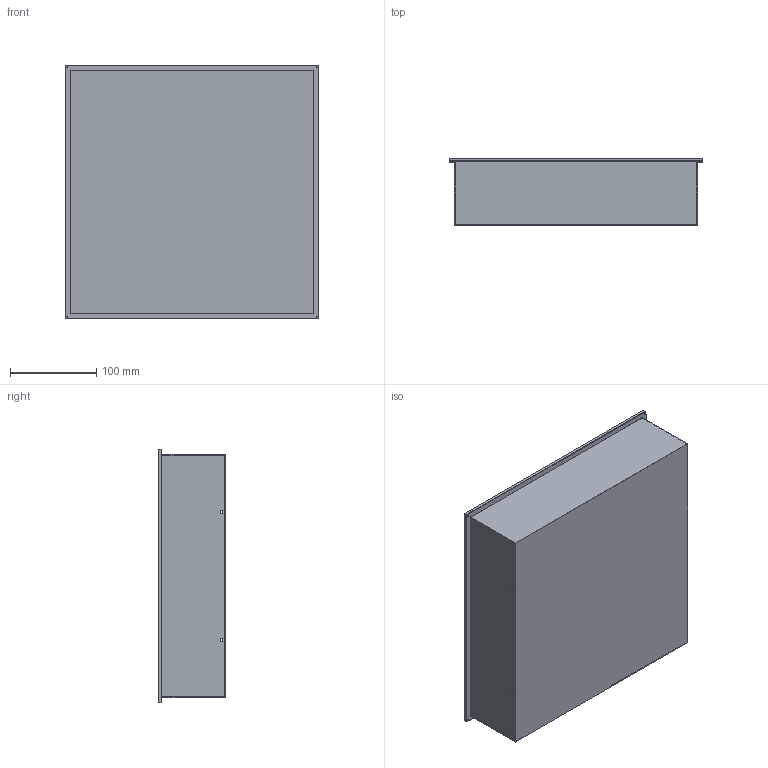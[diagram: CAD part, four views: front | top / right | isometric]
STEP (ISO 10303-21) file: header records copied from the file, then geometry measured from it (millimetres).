
FILE_DESCRIPTION(/* description */ (''),/* implementation_level */ '2;1');
FILE_NAME(/* name */ 'C:/Users/elena/Downloads/Coner QNQ 30.step',/* time_stamp */ '2020-06-17T13:00:11+02:00',/* author */ (''),/* organization */ (''),/* preprocessor_version */ 'ST-DEVELOPER v18.1',/* originating_system */ 'Autodesk Translation Framework v9.3.0.1241',/* authorisation */ '');
FILE_SCHEMA (('AUTOMOTIVE_DESIGN { 1 0 10303 214 3 1 1 }'));
Length unit declared in the file: millimetre
Products named in the file (1): (Unsaved)
Bounding box: 295 x 78 x 295 mm (x, y, z)
Volume: 431274.2 mm3; surface area: 519179.8 mm2
Topology: 2 solids, 2 shells, 39 faces, 117 edges, 84 vertices
Faces by surface type: plane 23, cylinder 12, bspline 4
Entity records: 2014 total; most frequent: CARTESIAN_POINT 891, ORIENTED_EDGE 234, DIRECTION 209, EDGE_CURVE 117, VERTEX_POINT 84, AXIS2_PLACEMENT_3D 70, LINE 69, VECTOR 69
